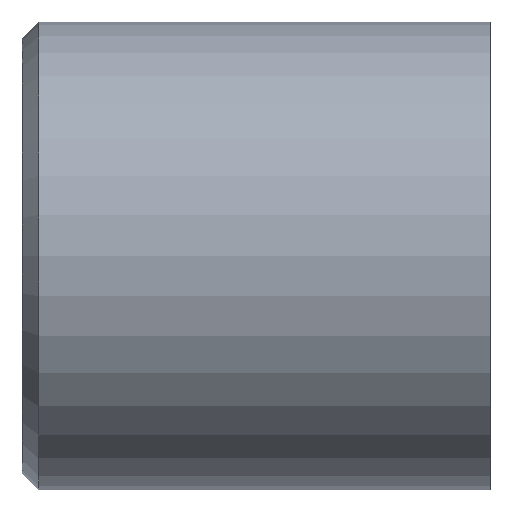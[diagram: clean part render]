
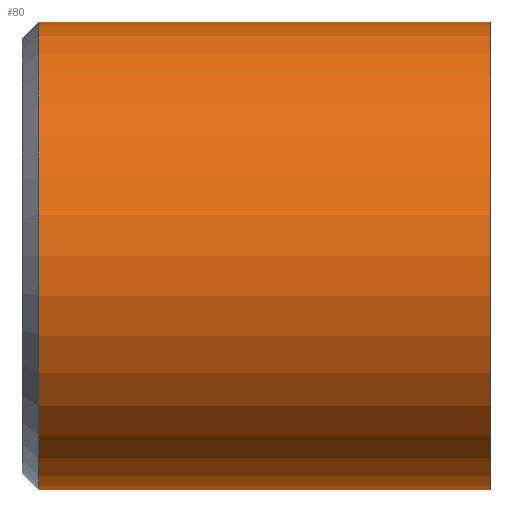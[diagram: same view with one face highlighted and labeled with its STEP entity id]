
A CAD part, top view. The second image highlights one B-rep face of the part: STEP entity #80.
In plain terms, the highlighted cylindrical face has radius 5 mm (diameter 10 mm), a partial arc.
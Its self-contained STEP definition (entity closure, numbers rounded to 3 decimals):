
#80 = ADVANCED_FACE( '', ( #91 ), #92, .T. );
#91 = FACE_OUTER_BOUND( '', #103, .T. );
#92 = CYLINDRICAL_SURFACE( '', #104, 5. );
#103 = EDGE_LOOP( '', ( #128, #129, #130, #131 ) );
#104 = AXIS2_PLACEMENT_3D( '', #132, #133, #134 );
#128 = ORIENTED_EDGE( '', *, *, #151, .T. );
#129 = ORIENTED_EDGE( '', *, *, #155, .F. );
#130 = ORIENTED_EDGE( '', *, *, #153, .T. );
#131 = ORIENTED_EDGE( '', *, *, #154, .T. );
#132 = CARTESIAN_POINT( '', ( 5.177, 0., 0. ) );
#133 = DIRECTION( '', ( 1., 0., 0. ) );
#134 = DIRECTION( '', ( 0., 1., 0. ) );
#151 = EDGE_CURVE( '', #165, #157, #166, .T. );
#153 = EDGE_CURVE( '', #160, #167, #169, .T. );
#154 = EDGE_CURVE( '', #167, #165, #170, .T. );
#155 = EDGE_CURVE( '', #160, #157, #171, .T. );
#157 = VERTEX_POINT( '', #173 );
#160 = VERTEX_POINT( '', #177 );
#165 = VERTEX_POINT( '', #183 );
#166 = LINE( '', #184, #185 );
#167 = VERTEX_POINT( '', #186 );
#169 = LINE( '', #188, #189 );
#170 = CIRCLE( '', #190, 5. );
#171 = CIRCLE( '', #191, 5. );
#173 = CARTESIAN_POINT( '', ( 0.354, 5., 0. ) );
#177 = CARTESIAN_POINT( '', ( 0.354, -5., 0. ) );
#183 = CARTESIAN_POINT( '', ( 10., 5., 0. ) );
#184 = CARTESIAN_POINT( '', ( 5.177, 5., 0. ) );
#185 = VECTOR( '', #201, 1. );
#186 = CARTESIAN_POINT( '', ( 10., -5., 0. ) );
#188 = CARTESIAN_POINT( '', ( 5.177, -5., 0. ) );
#189 = VECTOR( '', #205, 1. );
#190 = AXIS2_PLACEMENT_3D( '', #206, #207, #208 );
#191 = AXIS2_PLACEMENT_3D( '', #209, #210, #211 );
#201 = DIRECTION( '', ( -1., 0., 0. ) );
#205 = DIRECTION( '', ( 1., 0., 0. ) );
#206 = CARTESIAN_POINT( '', ( 10., 0., 0. ) );
#207 = DIRECTION( '', ( -1., 0., 0. ) );
#208 = DIRECTION( '', ( 0., 1., 0. ) );
#209 = CARTESIAN_POINT( '', ( 0.354, 0., 0. ) );
#210 = DIRECTION( '', ( -1., 0., 0. ) );
#211 = DIRECTION( '', ( 0., 1., 0. ) );
